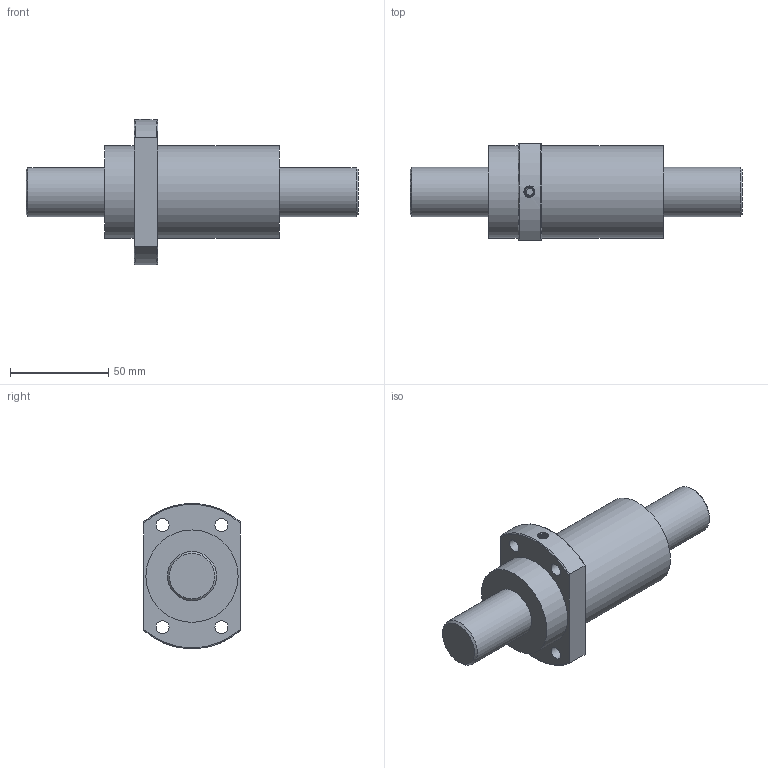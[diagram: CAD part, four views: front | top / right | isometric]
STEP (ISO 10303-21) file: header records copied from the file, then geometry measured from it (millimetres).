
FILE_DESCRIPTION(/* description */ ('Unknown','CAx-IF Rec.Pracs.---Representation and Presentation of Product Manufacturing Information (PMI)---4.0---2014-10-13','CAx-IF Rec.Pracs.---3D Tessellated Geometry---0.4---2014-09-14','2;1'),/* implementation_level */ '2;1');
FILE_NAME(/* name */ 'SFY2525-5.6',/* time_stamp */ '2020-12-06T18:14:10+08:00',/* author */ ('Unknown'),/* organization */ ('Unknown'),/* preprocessor_version */ 'ST-DEVELOPER v16.7',/* originating_system */ 'Solid Edge',/* authorisation */ 'Unknown');
FILE_SCHEMA (('AP242_MANAGED_MODEL_BASED_3D_ENGINEERING_MIM_LF { 1 0 10303 442 1 1 4 }'));
Length unit declared in the file: millimetre
Products named in the file (1): SFY2525-5
Bounding box: 169 x 49 x 73.88 mm (x, y, z)
Volume: 210876.1 mm3; surface area: 27917.7 mm2
Topology: 1 solids, 1 shells, 32 faces, 74 edges, 49 vertices
Faces by surface type: cylinder 13, plane 10, torus 4, cone 3, bspline 2
Full cylindrical faces by diameter (mm): 3.5 x1, 6.6 x4, 25 x2, 47 x2
Entity records: 3215 total; most frequent: CARTESIAN_POINT 2493, DIRECTION 138, ORIENTED_EDGE 114, AXIS2_PLACEMENT_3D 66, EDGE_CURVE 57, EDGE_LOOP 57, FACE_BOUND 57, VERTEX_POINT 44
